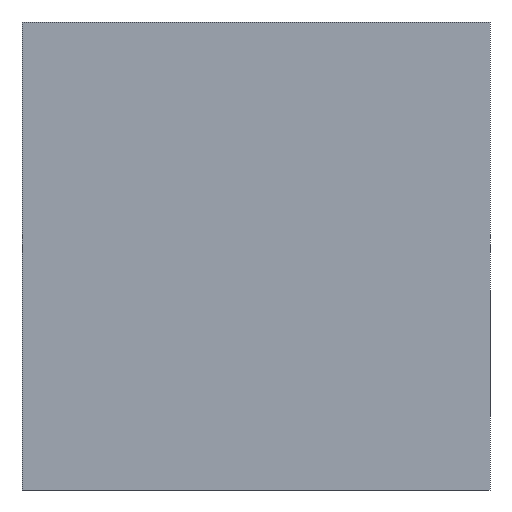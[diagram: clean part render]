
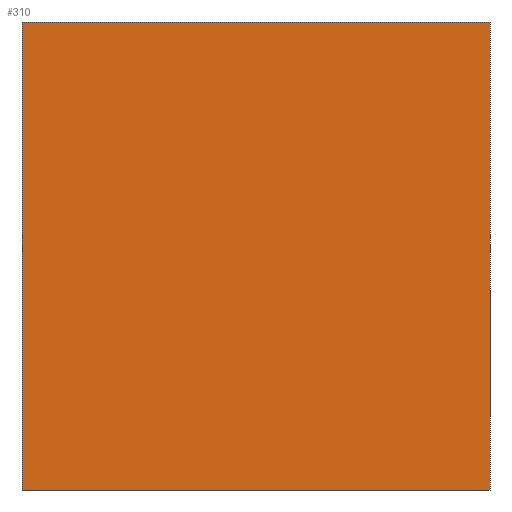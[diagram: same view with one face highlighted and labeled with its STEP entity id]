
A CAD part, left-side view. The second image highlights one B-rep face of the part: STEP entity #310.
In plain terms, the highlighted planar face has unit normal (-1, 0, 0).
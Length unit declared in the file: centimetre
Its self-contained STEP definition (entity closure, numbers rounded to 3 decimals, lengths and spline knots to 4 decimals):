
#6 = CARTESIAN_POINT ( 'NONE',  ( 0., 0., 1000. ) ) ;
#18 = VECTOR ( 'NONE', #171, 100. ) ;
#27 = DIRECTION ( 'NONE',  ( 0., 0., -1. ) ) ;
#46 = VECTOR ( 'NONE', #64, 100. ) ;
#57 = ORIENTED_EDGE ( 'NONE', *, *, #248, .F. ) ;
#64 = DIRECTION ( 'NONE',  ( 0., 0., -1. ) ) ;
#67 = CARTESIAN_POINT ( 'NONE',  ( 0., 1000., 1000. ) ) ;
#72 = LINE ( 'NONE', #526, #231 ) ;
#75 = VECTOR ( 'NONE', #173, 100. ) ;
#88 = LINE ( 'NONE', #224, #18 ) ;
#106 = CARTESIAN_POINT ( 'NONE',  ( 0., 1000., 1000. ) ) ;
#143 = ORIENTED_EDGE ( 'NONE', *, *, #229, .T. ) ;
#147 = EDGE_LOOP ( 'NONE', ( #143, #57, #181, #431 ) ) ;
#171 = DIRECTION ( 'NONE',  ( 0., -1., 0. ) ) ;
#173 = DIRECTION ( 'NONE',  ( 0., 0., -1. ) ) ;
#181 = ORIENTED_EDGE ( 'NONE', *, *, #385, .F. ) ;
#190 = VERTEX_POINT ( 'NONE', #268 ) ;
#224 = CARTESIAN_POINT ( 'NONE',  ( 0., 1000., 0. ) ) ;
#227 = LINE ( 'NONE', #67, #46 ) ;
#229 = EDGE_CURVE ( 'NONE', #190, #398, #88, .T. ) ;
#231 = VECTOR ( 'NONE', #240, 100. ) ;
#235 = PLANE ( 'NONE',  #383 ) ;
#240 = DIRECTION ( 'NONE',  ( 0., -1., 0. ) ) ;
#248 = EDGE_CURVE ( 'NONE', #527, #398, #265, .T. ) ;
#265 = LINE ( 'NONE', #6, #75 ) ;
#268 = CARTESIAN_POINT ( 'NONE',  ( 0., 1000., 0. ) ) ;
#278 = CARTESIAN_POINT ( 'NONE',  ( 0., 0., 1000. ) ) ;
#310 = ADVANCED_FACE ( 'NONE', ( #448 ), #235, .F. ) ;
#339 = EDGE_CURVE ( 'NONE', #353, #190, #227, .T. ) ;
#353 = VERTEX_POINT ( 'NONE', #106 ) ;
#356 = DIRECTION ( 'NONE',  ( 1., 0., 0. ) ) ;
#383 = AXIS2_PLACEMENT_3D ( 'NONE', #488, #356, #27 ) ;
#385 = EDGE_CURVE ( 'NONE', #353, #527, #72, .T. ) ;
#398 = VERTEX_POINT ( 'NONE', #444 ) ;
#431 = ORIENTED_EDGE ( 'NONE', *, *, #339, .T. ) ;
#444 = CARTESIAN_POINT ( 'NONE',  ( 0., 0., 0. ) ) ;
#448 = FACE_OUTER_BOUND ( 'NONE', #147, .T. ) ;
#488 = CARTESIAN_POINT ( 'NONE',  ( 0., 1000., 1000. ) ) ;
#526 = CARTESIAN_POINT ( 'NONE',  ( 0., 1000., 1000. ) ) ;
#527 = VERTEX_POINT ( 'NONE', #278 ) ;
